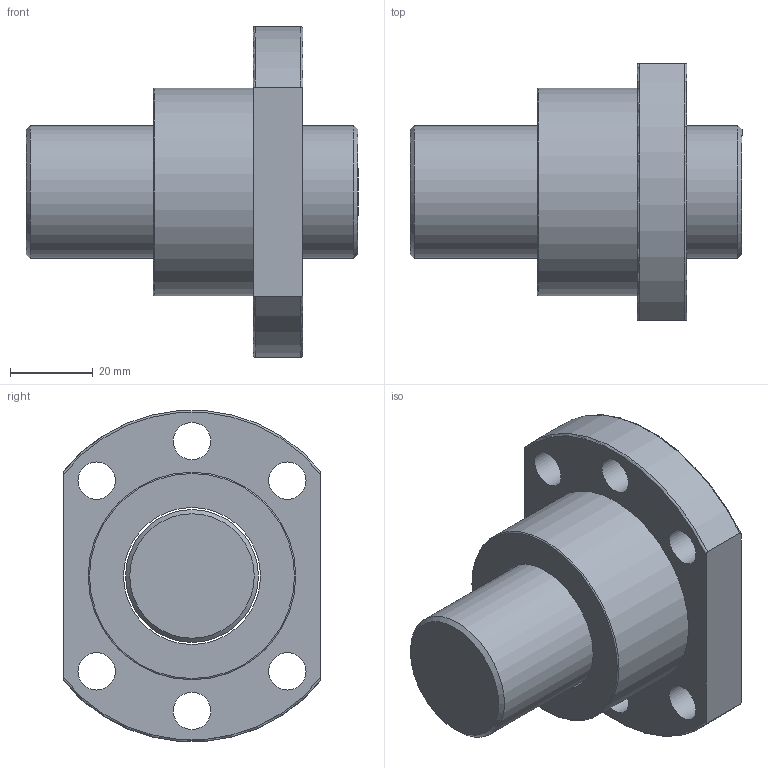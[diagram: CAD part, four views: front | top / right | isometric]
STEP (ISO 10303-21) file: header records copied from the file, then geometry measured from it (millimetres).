
FILE_DESCRIPTION(/* description */ (''),/* implementation_level */ '2;1');
FILE_NAME(/* name */ 'SFS3205',/* time_stamp */ '2007-10-26T11:01:05+08:00',/* author */ (''),/* organization */ (''),/* preprocessor_version */ 'ST-DEVELOPER v9',/* originating_system */ 'UGS - NX 3.0',/* authorisation */ '');
FILE_SCHEMA (('CONFIG_CONTROL_DESIGN'));
Length unit declared in the file: millimetre
Products named in the file (1): jaso37B0hu7j
Bounding box: 80 x 62 x 79.74 mm (x, y, z)
Volume: 122183.8 mm3; surface area: 28558.5 mm2
Topology: 2 solids, 2 shells, 27 faces, 60 edges, 39 vertices
Faces by surface type: cylinder 12, plane 8, torus 5, cone 2
Full cylindrical faces by diameter (mm): 9 x6, 32 x1, 33 x1, 50 x2
Entity records: 936 total; most frequent: CARTESIAN_POINT 258, DIRECTION 126, ORIENTED_EDGE 94, AXIS2_PLACEMENT_3D 59, EDGE_LOOP 56, EDGE_CURVE 47, FACE_BOUND 40, VERTEX_POINT 39
